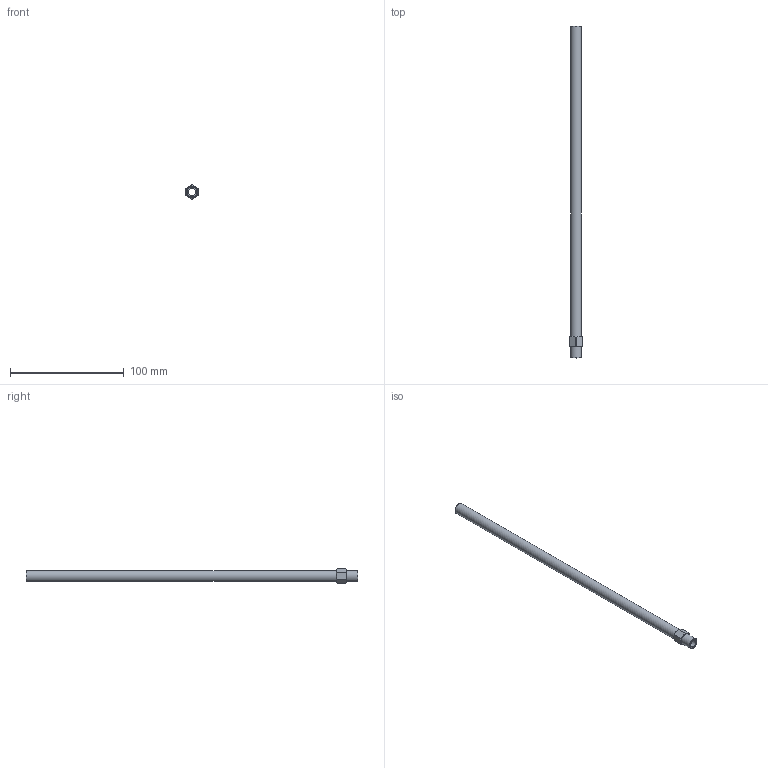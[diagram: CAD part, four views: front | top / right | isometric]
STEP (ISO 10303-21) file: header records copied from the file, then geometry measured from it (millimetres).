
FILE_DESCRIPTION(/* description */ (''),/* implementation_level */ '2;1');
FILE_NAME(/* name */ 'C:/Users/drich/Desktop/APN18-11-1_2 v1.step',/* time_stamp */ '2019-12-27T17:52:19-06:00',/* author */ (''),/* organization */ (''),/* preprocessor_version */ 'ST-DEVELOPER v18',/* originating_system */ 'Autodesk Translation Framework v8.12.0.6',/* authorisation */ '');
FILE_SCHEMA (('AUTOMOTIVE_DESIGN { 1 0 10303 214 3 1 1 }'));
Length unit declared in the file: inch
Products named in the file (1): APN18-11-1_2
Bounding box: 11.07 x 292.1 x 12.7 mm (x, y, z)
Volume: 12270.6 mm3; surface area: 14842.8 mm2
Topology: 1 solids, 1 shells, 23 faces, 59 edges, 40 vertices
Faces by surface type: plane 10, cylinder 9, cone 4
Full cylindrical faces by diameter (mm): 6.35 x1, 9.621 x2
Entity records: 751 total; most frequent: CARTESIAN_POINT 147, DIRECTION 123, ORIENTED_EDGE 118, EDGE_CURVE 59, AXIS2_PLACEMENT_3D 52, VERTEX_POINT 40, CIRCLE 28, EDGE_LOOP 27
